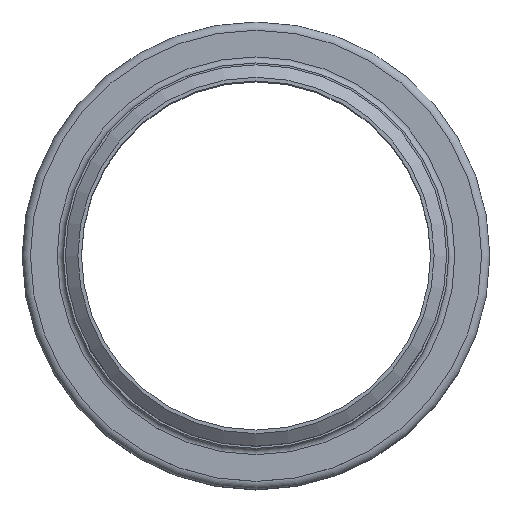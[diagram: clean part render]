
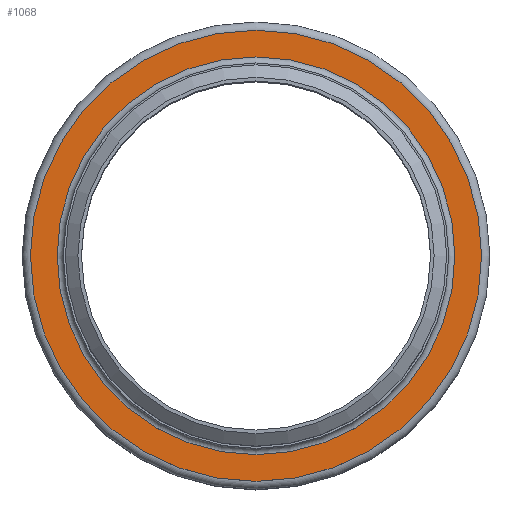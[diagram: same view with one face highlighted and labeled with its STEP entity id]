
A CAD part, top view. The second image highlights one B-rep face of the part: STEP entity #1068.
In plain terms, the highlighted planar face has unit normal (0, 0, 1).
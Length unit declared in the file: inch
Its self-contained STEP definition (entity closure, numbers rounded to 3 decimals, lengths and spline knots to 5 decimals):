
#102=FACE_BOUND('',#282,.T.);
#171=FACE_OUTER_BOUND('',#281,.T.);
#281=EDGE_LOOP('',(#824));
#282=EDGE_LOOP('',(#825));
#402=CIRCLE('',#1264,3.4555);
#403=CIRCLE('',#1266,3.9195);
#491=VERTEX_POINT('',#1935);
#492=VERTEX_POINT('',#1939);
#606=EDGE_CURVE('',#491,#491,#402,.T.);
#607=EDGE_CURVE('',#492,#492,#403,.T.);
#824=ORIENTED_EDGE('',*,*,#607,.F.);
#825=ORIENTED_EDGE('',*,*,#606,.T.);
#918=PLANE('',#1265);
#1068=ADVANCED_FACE('',(#171,#102),#918,.T.);
#1264=AXIS2_PLACEMENT_3D('',#1937,#1621,#1622);
#1265=AXIS2_PLACEMENT_3D('',#1938,#1623,#1624);
#1266=AXIS2_PLACEMENT_3D('',#1940,#1625,#1626);
#1621=DIRECTION('center_axis',(0.,0.,
-1.));
#1622=DIRECTION('ref_axis',(1.,0.,0.));
#1623=DIRECTION('center_axis',(0.,0.,
1.));
#1624=DIRECTION('ref_axis',(1.,0.,0.));
#1625=DIRECTION('center_axis',(0.,0.,
-1.));
#1626=DIRECTION('ref_axis',(1.,0.,0.));
#1935=CARTESIAN_POINT('',(3.4555,0.,-1.607));
#1937=CARTESIAN_POINT('Origin',(0.,0.,
-1.607));
#1938=CARTESIAN_POINT('Origin',(0.,3.9195,-1.607));
#1939=CARTESIAN_POINT('',(3.9195,0.,-1.607));
#1940=CARTESIAN_POINT('Origin',(0.,0.,
-1.607));
